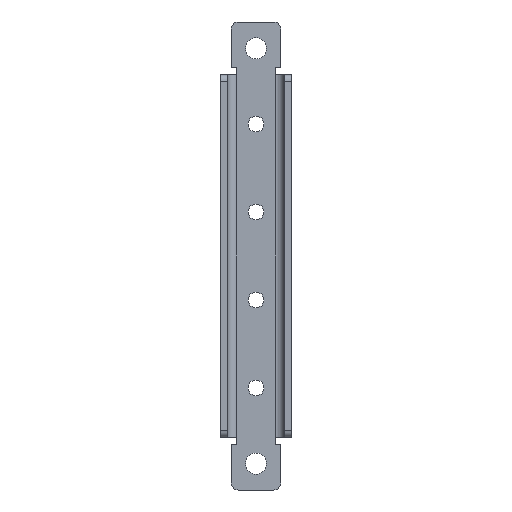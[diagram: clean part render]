
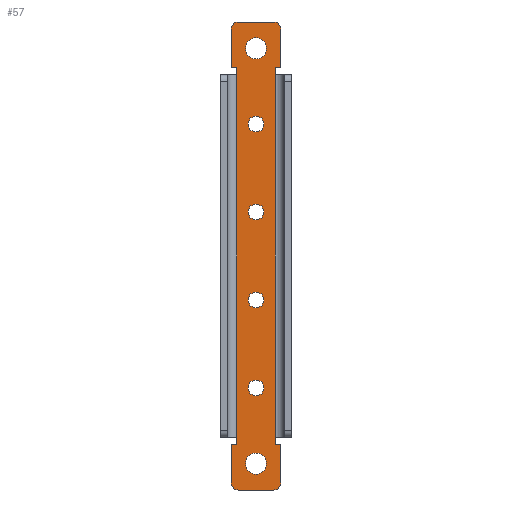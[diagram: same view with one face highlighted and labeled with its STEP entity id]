
A CAD part, left-side view. The second image highlights one B-rep face of the part: STEP entity #57.
In plain terms, the highlighted planar face has unit normal (-1, 0, 0).
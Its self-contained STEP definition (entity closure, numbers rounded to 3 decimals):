
#57=ADVANCED_FACE('',(#499,#501,#503,#505,#507,#509,#511),#513,.T.);
#499=FACE_BOUND('',#500,.T.);
#500=EDGE_LOOP('',(#878,#879,#880,#881,#882,#883,#884,#885,#886,#887,#888,#889,#890,
#891,#892,#893,#894,#895,#896,#897));
#501=FACE_BOUND('',#502,.T.);
#502=EDGE_LOOP('',(#898));
#503=FACE_BOUND('',#504,.T.);
#504=EDGE_LOOP('',(#899));
#505=FACE_BOUND('',#506,.T.);
#506=EDGE_LOOP('',(#900));
#507=FACE_BOUND('',#508,.T.);
#508=EDGE_LOOP('',(#901));
#509=FACE_BOUND('',#510,.T.);
#510=EDGE_LOOP('',(#902));
#511=FACE_BOUND('',#512,.T.);
#512=EDGE_LOOP('',(#903));
#513=PLANE('',#514);
#514=AXIS2_PLACEMENT_3D('',#515,#516,#517);
#515=CARTESIAN_POINT('',(10.,15.4,0.));
#516=DIRECTION('',(-1.,0.,0.));
#517=DIRECTION('',(0.,-1.,0.));
#878=ORIENTED_EDGE('',*,*,#1110,.F.);
#879=ORIENTED_EDGE('',*,*,#1111,.T.);
#880=ORIENTED_EDGE('',*,*,#1112,.F.);
#881=ORIENTED_EDGE('',*,*,#1113,.F.);
#882=ORIENTED_EDGE('',*,*,#1114,.F.);
#883=ORIENTED_EDGE('',*,*,#1115,.T.);
#884=ORIENTED_EDGE('',*,*,#1116,.T.);
#885=ORIENTED_EDGE('',*,*,#1117,.T.);
#886=ORIENTED_EDGE('',*,*,#1118,.F.);
#887=ORIENTED_EDGE('',*,*,#1119,.F.);
#888=ORIENTED_EDGE('',*,*,#1120,.F.);
#889=ORIENTED_EDGE('',*,*,#1121,.F.);
#890=ORIENTED_EDGE('',*,*,#1122,.F.);
#891=ORIENTED_EDGE('',*,*,#1123,.F.);
#892=ORIENTED_EDGE('',*,*,#1124,.F.);
#893=ORIENTED_EDGE('',*,*,#1125,.T.);
#894=ORIENTED_EDGE('',*,*,#1126,.F.);
#895=ORIENTED_EDGE('',*,*,#1127,.T.);
#896=ORIENTED_EDGE('',*,*,#1128,.F.);
#897=ORIENTED_EDGE('',*,*,#1129,.F.);
#898=ORIENTED_EDGE('',*,*,#1130,.T.);
#899=ORIENTED_EDGE('',*,*,#1131,.T.);
#900=ORIENTED_EDGE('',*,*,#1132,.T.);
#901=ORIENTED_EDGE('',*,*,#1133,.T.);
#902=ORIENTED_EDGE('',*,*,#1134,.T.);
#903=ORIENTED_EDGE('',*,*,#1135,.T.);
#1110=EDGE_CURVE('',#1252,#1253,#1254,.F.);
#1111=EDGE_CURVE('',#1252,#1255,#1256,.T.);
#1112=EDGE_CURVE('',#1257,#1255,#1258,.F.);
#1113=EDGE_CURVE('',#1259,#1257,#1260,.T.);
#1114=EDGE_CURVE('',#1261,#1259,#1262,.T.);
#1115=EDGE_CURVE('',#1261,#1263,#1264,.F.);
#1116=EDGE_CURVE('',#1263,#1265,#1266,.T.);
#1117=EDGE_CURVE('',#1265,#1267,#1268,.F.);
#1118=EDGE_CURVE('',#1269,#1267,#1270,.T.);
#1119=EDGE_CURVE('',#1271,#1269,#1272,.T.);
#1120=EDGE_CURVE('',#1273,#1271,#1274,.F.);
#1121=EDGE_CURVE('',#1275,#1273,#1276,.T.);
#1122=EDGE_CURVE('',#1277,#1275,#1278,.F.);
#1123=EDGE_CURVE('',#1279,#1277,#1280,.T.);
#1124=EDGE_CURVE('',#1281,#1279,#1282,.T.);
#1125=EDGE_CURVE('',#1281,#1283,#1284,.F.);
#1126=EDGE_CURVE('',#1285,#1283,#1286,.T.);
#1127=EDGE_CURVE('',#1285,#1287,#1288,.F.);
#1128=EDGE_CURVE('',#1289,#1287,#1290,.T.);
#1129=EDGE_CURVE('',#1253,#1289,#1291,.T.);
#1130=EDGE_CURVE('',#1292,#1292,#1293,.T.);
#1131=EDGE_CURVE('',#1294,#1294,#1295,.T.);
#1132=EDGE_CURVE('',#1296,#1296,#1297,.T.);
#1133=EDGE_CURVE('',#1298,#1298,#1299,.T.);
#1134=EDGE_CURVE('',#1300,#1300,#1301,.T.);
#1135=EDGE_CURVE('',#1302,#1302,#1303,.T.);
#1252=VERTEX_POINT('',#1506);
#1253=VERTEX_POINT('',#1507);
#1254=CIRCLE('',#1508,2.);
#1255=VERTEX_POINT('',#1512);
#1256=LINE('',#1513,#1514);
#1257=VERTEX_POINT('',#1516);
#1258=CIRCLE('',#1517,2.);
#1259=VERTEX_POINT('',#1521);
#1260=LINE('',#1522,#1523);
#1261=VERTEX_POINT('',#1525);
#1262=LINE('',#1526,#1527);
#1263=VERTEX_POINT('',#1529);
#1264=LINE('',#1530,#1531);
#1265=VERTEX_POINT('',#1533);
#1266=LINE('',#1534,#1535);
#1267=VERTEX_POINT('',#1537);
#1268=LINE('',#1538,#1539);
#1269=VERTEX_POINT('',#1541);
#1270=LINE('',#1542,#1543);
#1271=VERTEX_POINT('',#1545);
#1272=LINE('',#1546,#1547);
#1273=VERTEX_POINT('',#1549);
#1274=CIRCLE('',#1550,2.);
#1275=VERTEX_POINT('',#1554);
#1276=LINE('',#1555,#1556);
#1277=VERTEX_POINT('',#1558);
#1278=CIRCLE('',#1559,2.);
#1279=VERTEX_POINT('',#1563);
#1280=LINE('',#1564,#1565);
#1281=VERTEX_POINT('',#1567);
#1282=LINE('',#1568,#1569);
#1283=VERTEX_POINT('',#1571);
#1284=LINE('',#1572,#1573);
#1285=VERTEX_POINT('',#1575);
#1286=LINE('',#1576,#1577);
#1287=VERTEX_POINT('',#1579);
#1288=LINE('',#1580,#1581);
#1289=VERTEX_POINT('',#1583);
#1290=LINE('',#1584,#1585);
#1291=LINE('',#1587,#1588);
#1292=VERTEX_POINT('',#1590);
#1293=CIRCLE('',#1591,2.25);
#1294=VERTEX_POINT('',#1595);
#1295=CIRCLE('',#1596,2.25);
#1296=VERTEX_POINT('',#1600);
#1297=CIRCLE('',#1601,2.25);
#1298=VERTEX_POINT('',#1605);
#1299=CIRCLE('',#1606,3.);
#1300=VERTEX_POINT('',#1610);
#1301=CIRCLE('',#1611,3.);
#1302=VERTEX_POINT('',#1615);
#1303=CIRCLE('',#1616,2.25);
#1506=CARTESIAN_POINT('',(10.,15.,0.));
#1507=CARTESIAN_POINT('',(10.,17.,2.));
#1508=AXIS2_PLACEMENT_3D('',#1509,#1510,#1511);
#1509=CARTESIAN_POINT('',(10.,15.,2.));
#1510=DIRECTION('',(-1.,0.,0.));
#1511=DIRECTION('',(0.,1.,0.));
#1512=CARTESIAN_POINT('',(10.,5.,0.));
#1513=CARTESIAN_POINT('',(10.,15.,0.));
#1514=VECTOR('',#1515,1.);
#1515=DIRECTION('',(0.,-1.,0.));
#1516=CARTESIAN_POINT('',(10.,3.,2.));
#1517=AXIS2_PLACEMENT_3D('',#1518,#1519,#1520);
#1518=CARTESIAN_POINT('',(10.,5.,2.));
#1519=DIRECTION('',(-1.,0.,0.));
#1520=DIRECTION('',(0.,0.,-1.));
#1521=CARTESIAN_POINT('',(10.,3.,13.));
#1522=CARTESIAN_POINT('',(10.,3.,13.));
#1523=VECTOR('',#1524,1.);
#1524=DIRECTION('',(0.,0.,-1.));
#1525=CARTESIAN_POINT('',(10.,4.6,13.));
#1526=CARTESIAN_POINT('',(10.,4.6,13.));
#1527=VECTOR('',#1528,1.);
#1528=DIRECTION('',(0.,-1.,0.));
#1529=CARTESIAN_POINT('',(10.,4.6,15.));
#1530=CARTESIAN_POINT('',(10.,4.6,15.));
#1531=VECTOR('',#1532,1.);
#1532=DIRECTION('',(0.,0.,-1.));
#1533=CARTESIAN_POINT('',(10.,4.6,118.));
#1534=CARTESIAN_POINT('',(10.,4.6,15.));
#1535=VECTOR('',#1536,1.);
#1536=DIRECTION('',(0.,0.,1.));
#1537=CARTESIAN_POINT('',(10.,4.6,120.));
#1538=CARTESIAN_POINT('',(10.,4.6,120.));
#1539=VECTOR('',#1540,1.);
#1540=DIRECTION('',(0.,0.,-1.));
#1541=CARTESIAN_POINT('',(10.,3.,120.));
#1542=CARTESIAN_POINT('',(10.,3.,120.));
#1543=VECTOR('',#1544,1.);
#1544=DIRECTION('',(0.,1.,0.));
#1545=CARTESIAN_POINT('',(10.,3.,131.));
#1546=CARTESIAN_POINT('',(10.,3.,131.));
#1547=VECTOR('',#1548,1.);
#1548=DIRECTION('',(0.,0.,-1.));
#1549=CARTESIAN_POINT('',(10.,5.,133.));
#1550=AXIS2_PLACEMENT_3D('',#1551,#1552,#1553);
#1551=CARTESIAN_POINT('',(10.,5.,131.));
#1552=DIRECTION('',(-1.,0.,0.));
#1553=DIRECTION('',(0.,-1.,0.));
#1554=CARTESIAN_POINT('',(10.,15.,133.));
#1555=CARTESIAN_POINT('',(10.,15.,133.));
#1556=VECTOR('',#1557,1.);
#1557=DIRECTION('',(0.,-1.,0.));
#1558=CARTESIAN_POINT('',(10.,17.,131.));
#1559=AXIS2_PLACEMENT_3D('',#1560,#1561,#1562);
#1560=CARTESIAN_POINT('',(10.,15.,131.));
#1561=DIRECTION('',(-1.,0.,0.));
#1562=DIRECTION('',(0.,0.,1.));
#1563=CARTESIAN_POINT('',(10.,17.,120.));
#1564=CARTESIAN_POINT('',(10.,17.,120.));
#1565=VECTOR('',#1566,1.);
#1566=DIRECTION('',(0.,0.,1.));
#1567=CARTESIAN_POINT('',(10.,15.4,120.));
#1568=CARTESIAN_POINT('',(10.,15.4,120.));
#1569=VECTOR('',#1570,1.);
#1570=DIRECTION('',(0.,1.,0.));
#1571=CARTESIAN_POINT('',(10.,15.4,118.));
#1572=CARTESIAN_POINT('',(10.,15.4,118.));
#1573=VECTOR('',#1574,1.);
#1574=DIRECTION('',(0.,0.,1.));
#1575=CARTESIAN_POINT('',(10.,15.4,15.));
#1576=CARTESIAN_POINT('',(10.,15.4,15.));
#1577=VECTOR('',#1578,1.);
#1578=DIRECTION('',(0.,0.,1.));
#1579=CARTESIAN_POINT('',(10.,15.4,13.));
#1580=CARTESIAN_POINT('',(10.,15.4,13.));
#1581=VECTOR('',#1582,1.);
#1582=DIRECTION('',(0.,0.,1.));
#1583=CARTESIAN_POINT('',(10.,17.,13.));
#1584=CARTESIAN_POINT('',(10.,17.,13.));
#1585=VECTOR('',#1586,1.);
#1586=DIRECTION('',(0.,-1.,0.));
#1587=CARTESIAN_POINT('',(10.,17.,2.));
#1588=VECTOR('',#1589,1.);
#1589=DIRECTION('',(0.,0.,1.));
#1590=CARTESIAN_POINT('',(10.,10.,56.25));
#1591=AXIS2_PLACEMENT_3D('',#1592,#1593,#1594);
#1592=CARTESIAN_POINT('',(10.,10.,54.));
#1593=DIRECTION('',(1.,0.,0.));
#1594=DIRECTION('',(0.,0.,1.));
#1595=CARTESIAN_POINT('',(10.,10.,81.25));
#1596=AXIS2_PLACEMENT_3D('',#1597,#1598,#1599);
#1597=CARTESIAN_POINT('',(10.,10.,79.));
#1598=DIRECTION('',(1.,0.,0.));
#1599=DIRECTION('',(0.,0.,1.));
#1600=CARTESIAN_POINT('',(10.,10.,106.25));
#1601=AXIS2_PLACEMENT_3D('',#1602,#1603,#1604);
#1602=CARTESIAN_POINT('',(10.,10.,104.));
#1603=DIRECTION('',(1.,0.,0.));
#1604=DIRECTION('',(0.,0.,1.));
#1605=CARTESIAN_POINT('',(10.,10.,10.5));
#1606=AXIS2_PLACEMENT_3D('',#1607,#1608,#1609);
#1607=CARTESIAN_POINT('',(10.,10.,7.5));
#1608=DIRECTION('',(1.,0.,0.));
#1609=DIRECTION('',(0.,0.,1.));
#1610=CARTESIAN_POINT('',(10.,10.,128.5));
#1611=AXIS2_PLACEMENT_3D('',#1612,#1613,#1614);
#1612=CARTESIAN_POINT('',(10.,10.,125.5));
#1613=DIRECTION('',(1.,0.,0.));
#1614=DIRECTION('',(0.,0.,1.));
#1615=CARTESIAN_POINT('',(10.,10.,31.25));
#1616=AXIS2_PLACEMENT_3D('',#1617,#1618,#1619);
#1617=CARTESIAN_POINT('',(10.,10.,29.));
#1618=DIRECTION('',(1.,0.,0.));
#1619=DIRECTION('',(0.,0.,1.));
